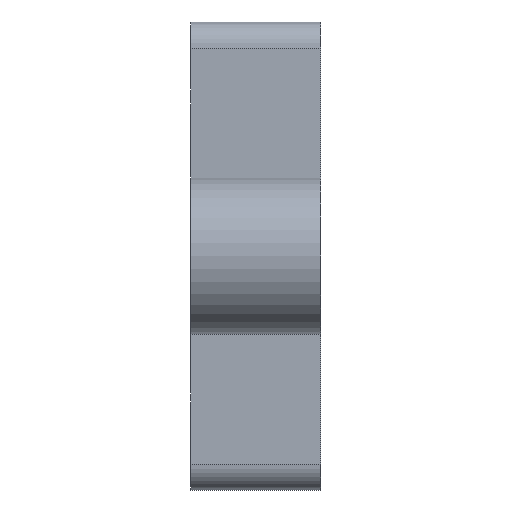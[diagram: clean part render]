
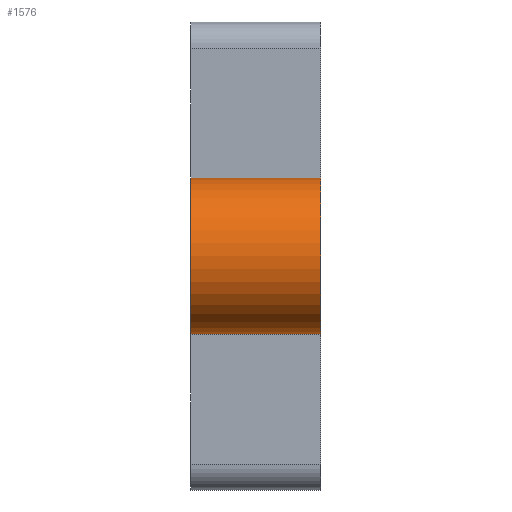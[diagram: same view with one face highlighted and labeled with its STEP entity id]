
A CAD part, left-side view. The second image highlights one B-rep face of the part: STEP entity #1576.
In plain terms, the highlighted cylindrical face has radius 6 mm (diameter 12 mm), a partial arc.
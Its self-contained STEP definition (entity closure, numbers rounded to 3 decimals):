
#44 = PLANE('',#45);
#45 = AXIS2_PLACEMENT_3D('',#46,#47,#48);
#46 = CARTESIAN_POINT('',(37.,46.5,-18.));
#47 = DIRECTION('',(-0.,1.,0.));
#48 = DIRECTION('',(0.,0.,1.));
#100 = PLANE('',#101);
#101 = AXIS2_PLACEMENT_3D('',#102,#103,#104);
#102 = CARTESIAN_POINT('',(37.,56.5,-18.));
#103 = DIRECTION('',(-0.,1.,0.));
#104 = DIRECTION('',(0.,0.,1.));
#220 = VERTEX_POINT('',#221);
#221 = CARTESIAN_POINT('',(28.712,46.5,-5.958));
#240 = CYLINDRICAL_SURFACE('',#241,1.);
#241 = AXIS2_PLACEMENT_3D('',#242,#243,#244);
#242 = CARTESIAN_POINT('',(29.,46.5,-5.));
#243 = DIRECTION('',(-0.,1.,0.));
#244 = DIRECTION('',(-1.,-0.,0.));
#252 = EDGE_CURVE('',#253,#220,#255,.T.);
#253 = VERTEX_POINT('',#254);
#254 = CARTESIAN_POINT('',(28.712,46.5,5.958));
#255 = SURFACE_CURVE('',#256,(#261,#272),.PCURVE_S1.);
#256 = CIRCLE('',#257,6.);
#257 = AXIS2_PLACEMENT_3D('',#258,#259,#260);
#258 = CARTESIAN_POINT('',(28.,46.5,0.));
#259 = DIRECTION('',(0.,-1.,0.));
#260 = DIRECTION('',(1.,0.,0.));
#261 = PCURVE('',#44,#262);
#262 = DEFINITIONAL_REPRESENTATION('',(#263),#271);
#263 = ( BOUNDED_CURVE() B_SPLINE_CURVE(2,(#264,#265,#266,#267,#268,#269
,#270),.UNSPECIFIED.,.T.,.F.) B_SPLINE_CURVE_WITH_KNOTS((1,2,2,2,2,1),(
    -2.094,0.,2.094,4.189,6.283,
8.378),.UNSPECIFIED.) CURVE() GEOMETRIC_REPRESENTATION_ITEM() 
RATIONAL_B_SPLINE_CURVE((1.,0.5,1.,0.5,1.,0.5,1.)) REPRESENTATION_ITEM(
  '') );
#264 = CARTESIAN_POINT('',(18.,-3.));
#265 = CARTESIAN_POINT('',(28.392,-3.));
#266 = CARTESIAN_POINT('',(23.196,-12.));
#267 = CARTESIAN_POINT('',(18.,-21.));
#268 = CARTESIAN_POINT('',(12.804,-12.));
#269 = CARTESIAN_POINT('',(7.608,-3.));
#270 = CARTESIAN_POINT('',(18.,-3.));
#271 = ( GEOMETRIC_REPRESENTATION_CONTEXT(2) 
PARAMETRIC_REPRESENTATION_CONTEXT() REPRESENTATION_CONTEXT('2D SPACE',''
  ) );
#272 = PCURVE('',#273,#278);
#273 = CYLINDRICAL_SURFACE('',#274,6.);
#274 = AXIS2_PLACEMENT_3D('',#275,#276,#277);
#275 = CARTESIAN_POINT('',(28.,56.5,0.));
#276 = DIRECTION('',(0.,-1.,0.));
#277 = DIRECTION('',(1.,0.,0.));
#278 = DEFINITIONAL_REPRESENTATION('',(#279),#283);
#279 = LINE('',#280,#281);
#280 = CARTESIAN_POINT('',(0.,10.));
#281 = VECTOR('',#282,1.);
#282 = DIRECTION('',(1.,0.));
#283 = ( GEOMETRIC_REPRESENTATION_CONTEXT(2) 
PARAMETRIC_REPRESENTATION_CONTEXT() REPRESENTATION_CONTEXT('2D SPACE',''
  ) );
#302 = CYLINDRICAL_SURFACE('',#303,1.);
#303 = AXIS2_PLACEMENT_3D('',#304,#305,#306);
#304 = CARTESIAN_POINT('',(29.,46.5,5.));
#305 = DIRECTION('',(-0.,1.,0.));
#306 = DIRECTION('',(-1.,-0.,0.));
#872 = VERTEX_POINT('',#873);
#873 = CARTESIAN_POINT('',(28.712,56.5,-5.958));
#899 = EDGE_CURVE('',#900,#872,#902,.T.);
#900 = VERTEX_POINT('',#901);
#901 = CARTESIAN_POINT('',(28.712,56.5,5.958));
#902 = SURFACE_CURVE('',#903,(#908,#919),.PCURVE_S1.);
#903 = CIRCLE('',#904,6.);
#904 = AXIS2_PLACEMENT_3D('',#905,#906,#907);
#905 = CARTESIAN_POINT('',(28.,56.5,0.));
#906 = DIRECTION('',(0.,-1.,0.));
#907 = DIRECTION('',(1.,0.,0.));
#908 = PCURVE('',#100,#909);
#909 = DEFINITIONAL_REPRESENTATION('',(#910),#918);
#910 = ( BOUNDED_CURVE() B_SPLINE_CURVE(2,(#911,#912,#913,#914,#915,#916
,#917),.UNSPECIFIED.,.T.,.F.) B_SPLINE_CURVE_WITH_KNOTS((1,2,2,2,2,1),(
    -2.094,0.,2.094,4.189,6.283,
8.378),.UNSPECIFIED.) CURVE() GEOMETRIC_REPRESENTATION_ITEM() 
RATIONAL_B_SPLINE_CURVE((1.,0.5,1.,0.5,1.,0.5,1.)) REPRESENTATION_ITEM(
  '') );
#911 = CARTESIAN_POINT('',(18.,-3.));
#912 = CARTESIAN_POINT('',(28.392,-3.));
#913 = CARTESIAN_POINT('',(23.196,-12.));
#914 = CARTESIAN_POINT('',(18.,-21.));
#915 = CARTESIAN_POINT('',(12.804,-12.));
#916 = CARTESIAN_POINT('',(7.608,-3.));
#917 = CARTESIAN_POINT('',(18.,-3.));
#918 = ( GEOMETRIC_REPRESENTATION_CONTEXT(2) 
PARAMETRIC_REPRESENTATION_CONTEXT() REPRESENTATION_CONTEXT('2D SPACE',''
  ) );
#919 = PCURVE('',#273,#920);
#920 = DEFINITIONAL_REPRESENTATION('',(#921),#925);
#921 = LINE('',#922,#923);
#922 = CARTESIAN_POINT('',(0.,0.));
#923 = VECTOR('',#924,1.);
#924 = DIRECTION('',(1.,0.));
#925 = ( GEOMETRIC_REPRESENTATION_CONTEXT(2) 
PARAMETRIC_REPRESENTATION_CONTEXT() REPRESENTATION_CONTEXT('2D SPACE',''
  ) );
#1528 = EDGE_CURVE('',#872,#220,#1529,.T.);
#1529 = SURFACE_CURVE('',#1530,(#1534,#1540),.PCURVE_S1.);
#1530 = LINE('',#1531,#1532);
#1531 = CARTESIAN_POINT('',(28.712,56.5,-5.958));
#1532 = VECTOR('',#1533,1.);
#1533 = DIRECTION('',(0.,-1.,0.));
#1534 = PCURVE('',#240,#1535);
#1535 = DEFINITIONAL_REPRESENTATION('',(#1536),#1539);
#1536 = B_SPLINE_CURVE_WITH_KNOTS('',1,(#1537,#1538),.UNSPECIFIED.,.F.,
  .F.,(2,2),(0.,10.),.PIECEWISE_BEZIER_KNOTS.);
#1537 = CARTESIAN_POINT('',(-1.279,10.));
#1538 = CARTESIAN_POINT('',(-1.279,0.));
#1539 = ( GEOMETRIC_REPRESENTATION_CONTEXT(2) 
PARAMETRIC_REPRESENTATION_CONTEXT() REPRESENTATION_CONTEXT('2D SPACE',''
  ) );
#1540 = PCURVE('',#273,#1541);
#1541 = DEFINITIONAL_REPRESENTATION('',(#1542),#1545);
#1542 = B_SPLINE_CURVE_WITH_KNOTS('',1,(#1543,#1544),.UNSPECIFIED.,.F.,
  .F.,(2,2),(0.,10.),.PIECEWISE_BEZIER_KNOTS.);
#1543 = CARTESIAN_POINT('',(4.831,0.));
#1544 = CARTESIAN_POINT('',(4.831,10.));
#1545 = ( GEOMETRIC_REPRESENTATION_CONTEXT(2) 
PARAMETRIC_REPRESENTATION_CONTEXT() REPRESENTATION_CONTEXT('2D SPACE',''
  ) );
#1576 = ADVANCED_FACE('',(#1577),#273,.T.);
#1577 = FACE_BOUND('',#1578,.T.);
#1578 = EDGE_LOOP('',(#1579,#1580,#1599,#1600));
#1579 = ORIENTED_EDGE('',*,*,#252,.F.);
#1580 = ORIENTED_EDGE('',*,*,#1581,.F.);
#1581 = EDGE_CURVE('',#900,#253,#1582,.T.);
#1582 = SURFACE_CURVE('',#1583,(#1587,#1593),.PCURVE_S1.);
#1583 = LINE('',#1584,#1585);
#1584 = CARTESIAN_POINT('',(28.712,56.5,5.958));
#1585 = VECTOR('',#1586,1.);
#1586 = DIRECTION('',(0.,-1.,0.));
#1587 = PCURVE('',#273,#1588);
#1588 = DEFINITIONAL_REPRESENTATION('',(#1589),#1592);
#1589 = B_SPLINE_CURVE_WITH_KNOTS('',1,(#1590,#1591),.UNSPECIFIED.,.F.,
  .F.,(2,2),(0.,10.),.PIECEWISE_BEZIER_KNOTS.);
#1590 = CARTESIAN_POINT('',(1.452,0.));
#1591 = CARTESIAN_POINT('',(1.452,10.));
#1592 = ( GEOMETRIC_REPRESENTATION_CONTEXT(2) 
PARAMETRIC_REPRESENTATION_CONTEXT() REPRESENTATION_CONTEXT('2D SPACE',''
  ) );
#1593 = PCURVE('',#302,#1594);
#1594 = DEFINITIONAL_REPRESENTATION('',(#1595),#1598);
#1595 = B_SPLINE_CURVE_WITH_KNOTS('',1,(#1596,#1597),.UNSPECIFIED.,.F.,
  .F.,(2,2),(0.,10.),.PIECEWISE_BEZIER_KNOTS.);
#1596 = CARTESIAN_POINT('',(1.279,10.));
#1597 = CARTESIAN_POINT('',(1.279,0.));
#1598 = ( GEOMETRIC_REPRESENTATION_CONTEXT(2) 
PARAMETRIC_REPRESENTATION_CONTEXT() REPRESENTATION_CONTEXT('2D SPACE',''
  ) );
#1599 = ORIENTED_EDGE('',*,*,#899,.T.);
#1600 = ORIENTED_EDGE('',*,*,#1528,.T.);
